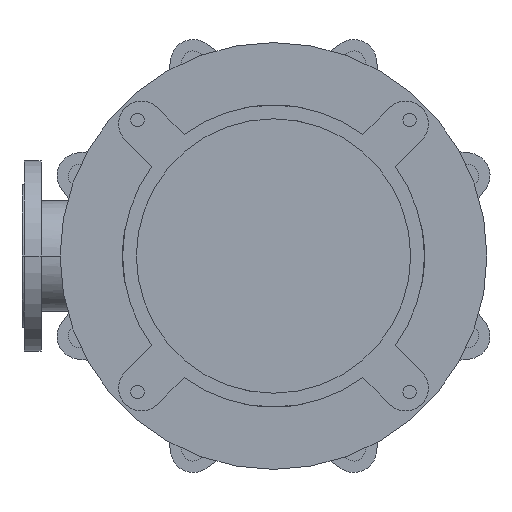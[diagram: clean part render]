
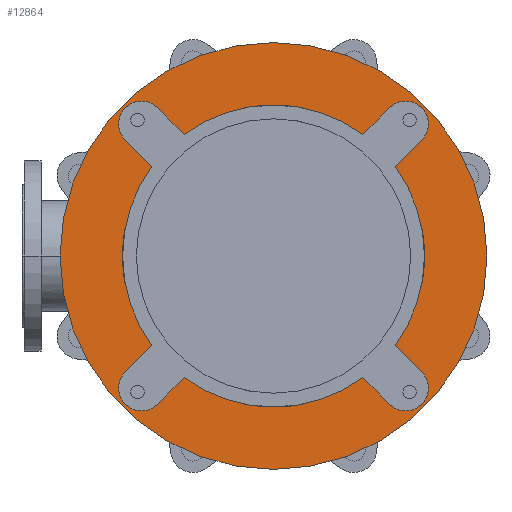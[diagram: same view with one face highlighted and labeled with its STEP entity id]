
A CAD part, front view. The second image highlights one B-rep face of the part: STEP entity #12864.
In plain terms, the highlighted planar face has unit normal (0, -1, 0).
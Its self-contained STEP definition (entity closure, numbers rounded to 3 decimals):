
#2489=CARTESIAN_POINT('',(0.,-25.,0.));
#2490=DIRECTION('',(0.,1.,0.));
#2491=DIRECTION('',(0.592,0.,-0.806));
#2492=AXIS2_PLACEMENT_3D('',#2489,#2490,#2491);
#2507=CARTESIAN_POINT('',(0.,-25.,0.));
#2508=DIRECTION('',(0.,1.,0.));
#2509=DIRECTION('',(0.806,0.,0.592));
#2510=AXIS2_PLACEMENT_3D('',#2507,#2508,#2509);
#2534=CARTESIAN_POINT('',(0.,-25.,0.));
#2535=DIRECTION('',(0.,1.,0.));
#2536=DIRECTION('',(-0.806,0.,-0.592));
#2537=AXIS2_PLACEMENT_3D('',#2534,#2535,#2536);
#2543=CARTESIAN_POINT('',(0.,-25.,0.));
#2544=DIRECTION('',(0.,1.,0.));
#2545=DIRECTION('',(-0.592,0.,0.806));
#2546=AXIS2_PLACEMENT_3D('',#2543,#2544,#2545);
#2721=CARTESIAN_POINT('',(0.,-25.,0.));
#2722=DIRECTION('',(0.,-1.,0.));
#2723=DIRECTION('',(-1.,0.,0.));
#2724=AXIS2_PLACEMENT_3D('',#2721,#2722,#2723);
#2726=CARTESIAN_POINT('',(0.,-25.,0.));
#2727=DIRECTION('',(0.,1.,0.));
#2728=DIRECTION('',(-1.,0.,0.));
#2729=AXIS2_PLACEMENT_3D('',#2726,#2727,#2728);
#2731=CARTESIAN_POINT('',(-173.241,-25.,173.241));
#2732=DIRECTION('',(0.,-1.,0.));
#2733=DIRECTION('',(0.707,0.,0.707));
#2734=AXIS2_PLACEMENT_3D('',#2731,#2732,#2733);
#2736=DIRECTION('',(0.707,0.,-0.707));
#2737=VECTOR('',#2736,49.286);
#2738=CARTESIAN_POINT('',(-194.454,-25.,152.028));
#2739=LINE('',#2738,#2737);
#2740=DIRECTION('',(-0.707,0.,-0.707));
#2741=VECTOR('',#2740,49.286);
#2742=CARTESIAN_POINT('',(-159.604,-25.,-117.178));
#2743=LINE('',#2742,#2741);
#2744=CARTESIAN_POINT('',(-173.241,-25.,-173.241));
#2745=DIRECTION('',(0.,-1.,0.));
#2746=DIRECTION('',(-0.707,0.,0.707));
#2747=AXIS2_PLACEMENT_3D('',#2744,#2745,#2746);
#2749=DIRECTION('',(0.707,0.,0.707));
#2750=VECTOR('',#2749,49.286);
#2751=CARTESIAN_POINT('',(-152.028,-25.,-194.454));
#2752=LINE('',#2751,#2750);
#2753=DIRECTION('',(0.707,0.,-0.707));
#2754=VECTOR('',#2753,49.286);
#2755=CARTESIAN_POINT('',(117.178,-25.,-159.604));
#2756=LINE('',#2755,#2754);
#2757=CARTESIAN_POINT('',(173.241,-25.,-173.241));
#2758=DIRECTION('',(0.,-1.,0.));
#2759=DIRECTION('',(-0.707,0.,-0.707));
#2760=AXIS2_PLACEMENT_3D('',#2757,#2758,#2759);
#2762=DIRECTION('',(-0.707,0.,0.707));
#2763=VECTOR('',#2762,49.286);
#2764=CARTESIAN_POINT('',(194.454,-25.,-152.028));
#2765=LINE('',#2764,#2763);
#2766=DIRECTION('',(0.707,0.,0.707));
#2767=VECTOR('',#2766,49.286);
#2768=CARTESIAN_POINT('',(159.604,-25.,117.178));
#2769=LINE('',#2768,#2767);
#2770=CARTESIAN_POINT('',(173.241,-25.,173.241));
#2771=DIRECTION('',(0.,-1.,0.));
#2772=DIRECTION('',(0.707,0.,-0.707));
#2773=AXIS2_PLACEMENT_3D('',#2770,#2771,#2772);
#2775=DIRECTION('',(-0.707,0.,-0.707));
#2776=VECTOR('',#2775,49.286);
#2777=CARTESIAN_POINT('',(152.028,-25.,194.454));
#2778=LINE('',#2777,#2776);
#2779=DIRECTION('',(-0.707,0.,0.707));
#2780=VECTOR('',#2779,49.286);
#2781=CARTESIAN_POINT('',(-117.178,-25.,159.604));
#2782=LINE('',#2781,#2780);
#8391=CARTESIAN_POINT('',(-280.,-25.,0.));
#8392=CARTESIAN_POINT('',(280.,-25.,0.));
#8393=VERTEX_POINT('',#8391);
#8394=VERTEX_POINT('',#8392);
#8415=CARTESIAN_POINT('',(-194.454,-25.,-152.028));
#8416=CARTESIAN_POINT('',(-152.028,-25.,-194.454));
#8417=VERTEX_POINT('',#8415);
#8418=VERTEX_POINT('',#8416);
#8419=CARTESIAN_POINT('',(-117.178,-25.,-159.604));
#8420=VERTEX_POINT('',#8419);
#8421=CARTESIAN_POINT('',(-159.604,-25.,-117.178));
#8422=VERTEX_POINT('',#8421);
#8431=CARTESIAN_POINT('',(152.028,-25.,-194.454));
#8432=CARTESIAN_POINT('',(194.454,-25.,-152.028));
#8433=VERTEX_POINT('',#8431);
#8434=VERTEX_POINT('',#8432);
#8435=CARTESIAN_POINT('',(159.604,-25.,-117.178));
#8436=VERTEX_POINT('',#8435);
#8437=CARTESIAN_POINT('',(117.178,-25.,-159.604));
#8438=VERTEX_POINT('',#8437);
#8447=CARTESIAN_POINT('',(194.454,-25.,152.028));
#8448=CARTESIAN_POINT('',(152.028,-25.,194.454));
#8449=VERTEX_POINT('',#8447);
#8450=VERTEX_POINT('',#8448);
#8451=CARTESIAN_POINT('',(117.178,-25.,159.604));
#8452=VERTEX_POINT('',#8451);
#8453=CARTESIAN_POINT('',(159.604,-25.,117.178));
#8454=VERTEX_POINT('',#8453);
#8463=CARTESIAN_POINT('',(-152.028,-25.,194.454));
#8464=CARTESIAN_POINT('',(-194.454,-25.,152.028));
#8465=VERTEX_POINT('',#8463);
#8466=VERTEX_POINT('',#8464);
#8467=CARTESIAN_POINT('',(-159.604,-25.,117.178));
#8468=VERTEX_POINT('',#8467);
#8469=CARTESIAN_POINT('',(-117.178,-25.,159.604));
#8470=VERTEX_POINT('',#8469);
#12824=CARTESIAN_POINT('',(0.,-25.,0.));
#12825=DIRECTION('',(0.,-1.,0.));
#12826=DIRECTION('',(-1.,0.,0.));
#12827=AXIS2_PLACEMENT_3D('',#12824,#12825,#12826);
#12828=PLANE('',#12827);
#12830=ORIENTED_EDGE('',*,*,#12829,.F.);
#12832=ORIENTED_EDGE('',*,*,#12831,.T.);
#12833=EDGE_LOOP('',(#12830,#12832));
#12834=FACE_OUTER_BOUND('',#12833,.F.);
#12836=ORIENTED_EDGE('',*,*,#12835,.T.);
#12838=ORIENTED_EDGE('',*,*,#12837,.T.);
#12839=ORIENTED_EDGE('',*,*,#12777,.F.);
#12841=ORIENTED_EDGE('',*,*,#12840,.T.);
#12843=ORIENTED_EDGE('',*,*,#12842,.T.);
#12845=ORIENTED_EDGE('',*,*,#12844,.T.);
#12846=ORIENTED_EDGE('',*,*,#12730,.F.);
#12847=ORIENTED_EDGE('',*,*,#12814,.T.);
#12849=ORIENTED_EDGE('',*,*,#12848,.T.);
#12851=ORIENTED_EDGE('',*,*,#12850,.T.);
#12852=ORIENTED_EDGE('',*,*,#12751,.F.);
#12854=ORIENTED_EDGE('',*,*,#12853,.T.);
#12856=ORIENTED_EDGE('',*,*,#12855,.T.);
#12858=ORIENTED_EDGE('',*,*,#12857,.T.);
#12859=ORIENTED_EDGE('',*,*,#12795,.F.);
#12861=ORIENTED_EDGE('',*,*,#12860,.T.);
#12862=EDGE_LOOP('',(#12836,#12838,#12839,#12841,#12843,#12845,#12846,#12847,
#12849,#12851,#12852,#12854,#12856,#12858,#12859,#12861));
#12863=FACE_BOUND('',#12862,.F.);
#12864=ADVANCED_FACE('',(#12834,#12863),#12828,.T.);
#2493=CIRCLE('',#2492,198.);
#2511=CIRCLE('',#2510,198.);
#2538=CIRCLE('',#2537,198.);
#2547=CIRCLE('',#2546,198.);
#2725=CIRCLE('',#2724,280.);
#2730=CIRCLE('',#2729,280.);
#2735=CIRCLE('',#2734,30.);
#2748=CIRCLE('',#2747,30.);
#2761=CIRCLE('',#2760,30.);
#2774=CIRCLE('',#2773,30.);
#12730=EDGE_CURVE('',#8438,#8420,#2493,.T.);
#12751=EDGE_CURVE('',#8454,#8436,#2511,.T.);
#12777=EDGE_CURVE('',#8422,#8468,#2538,.T.);
#12795=EDGE_CURVE('',#8470,#8452,#2547,.T.);
#12814=EDGE_CURVE('',#8438,#8433,#2756,.T.);
#12829=EDGE_CURVE('',#8393,#8394,#2725,.T.);
#12831=EDGE_CURVE('',#8393,#8394,#2730,.T.);
#12835=EDGE_CURVE('',#8465,#8466,#2735,.T.);
#12837=EDGE_CURVE('',#8466,#8468,#2739,.T.);
#12840=EDGE_CURVE('',#8422,#8417,#2743,.T.);
#12842=EDGE_CURVE('',#8417,#8418,#2748,.T.);
#12844=EDGE_CURVE('',#8418,#8420,#2752,.T.);
#12848=EDGE_CURVE('',#8433,#8434,#2761,.T.);
#12850=EDGE_CURVE('',#8434,#8436,#2765,.T.);
#12853=EDGE_CURVE('',#8454,#8449,#2769,.T.);
#12855=EDGE_CURVE('',#8449,#8450,#2774,.T.);
#12857=EDGE_CURVE('',#8450,#8452,#2778,.T.);
#12860=EDGE_CURVE('',#8470,#8465,#2782,.T.);
